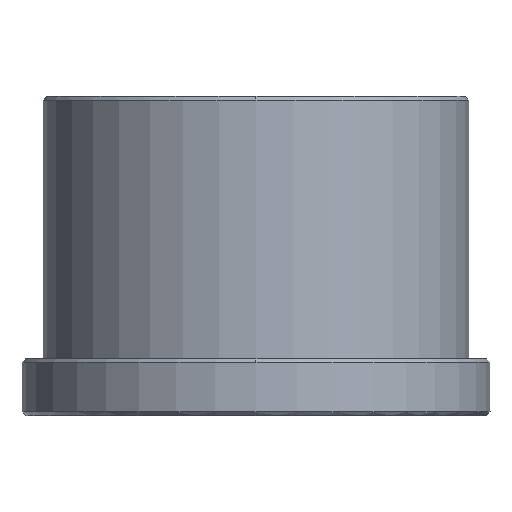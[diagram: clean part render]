
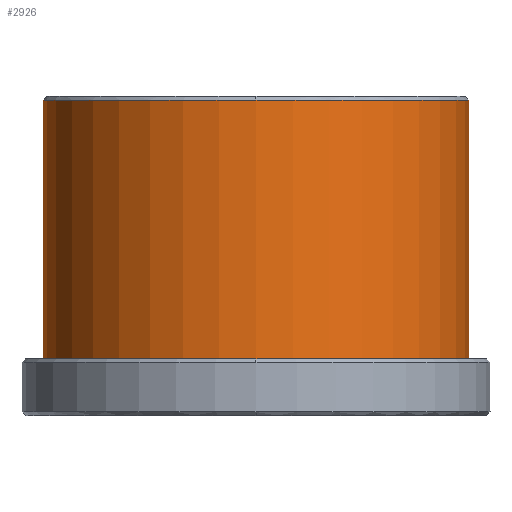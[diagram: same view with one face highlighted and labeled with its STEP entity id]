
A CAD part, front view. The second image highlights one B-rep face of the part: STEP entity #2926.
In plain terms, the highlighted cylindrical face has radius 30 mm (diameter 60 mm), a partial arc.
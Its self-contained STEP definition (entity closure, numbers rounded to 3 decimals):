
#2719=CARTESIAN_POINT('Vertex',(30.,0.,44.5)) ;
#2743=CARTESIAN_POINT('Vertex',(-30.,0.,44.5)) ;
#2767=CARTESIAN_POINT('Vertex',(0.,-30.,44.5)) ;
#2770=CARTESIAN_POINT('Axis2P3D Location',(0.,0.,44.5)) ;
#2787=CARTESIAN_POINT('Axis2P3D Location',(0.,0.,44.5)) ;
#2882=CARTESIAN_POINT('Line Origine',(30.,0.,-2.25)) ;
#2886=CARTESIAN_POINT('Vertex',(30.,0.,8.)) ;
#2893=CARTESIAN_POINT('Vertex',(-30.,0.,8.)) ;
#2896=CARTESIAN_POINT('Line Origine',(-30.,0.,-2.25)) ;
#2909=CARTESIAN_POINT('Axis2P3D Location',(0.,0.,-2.25)) ;
#2914=CARTESIAN_POINT('Axis2P3D Location',(0.,0.,8.)) ;
#2771=DIRECTION('Axis2P3D Direction',(0.,0.,-1.)) ;
#2788=DIRECTION('Axis2P3D Direction',(0.,0.,-1.)) ;
#2883=DIRECTION('Vector Direction',(0.,0.,1.)) ;
#2897=DIRECTION('Vector Direction',(0.,0.,1.)) ;
#2910=DIRECTION('Axis2P3D Direction',(0.,0.,1.)) ;
#2911=DIRECTION('Axis2P3D XDirection',(-1.,0.,0.)) ;
#2915=DIRECTION('Axis2P3D Direction',(0.,0.,1.)) ;
#2772=AXIS2_PLACEMENT_3D('Circle Axis2P3D',#2770,#2771,$) ;
#2789=AXIS2_PLACEMENT_3D('Circle Axis2P3D',#2787,#2788,$) ;
#2912=AXIS2_PLACEMENT_3D('Cylinder Axis2P3D',#2909,#2910,#2911) ;
#2916=AXIS2_PLACEMENT_3D('Circle Axis2P3D',#2914,#2915,$) ;
#2920=ORIENTED_EDGE('',*,*,#2900,.T.) ;
#2921=ORIENTED_EDGE('',*,*,#2918,.F.) ;
#2922=ORIENTED_EDGE('',*,*,#2888,.F.) ;
#2923=ORIENTED_EDGE('',*,*,#2791,.T.) ;
#2924=ORIENTED_EDGE('',*,*,#2774,.T.) ;
#2884=VECTOR('Line Direction',#2883,1.) ;
#2898=VECTOR('Line Direction',#2897,1.) ;
#2926=ADVANCED_FACE('MANIFOLD_SOLID_BREP #2292',(#2925),#2913,.T.) ;
#2773=CIRCLE('generated circle',#2772,30.) ;
#2790=CIRCLE('generated circle',#2789,30.) ;
#2917=CIRCLE('generated circle',#2916,30.) ;
#2913=CYLINDRICAL_SURFACE('generated cylinder',#2912,30.) ;
#2774=EDGE_CURVE('',#2768,#2744,#2773,.T.) ;
#2791=EDGE_CURVE('',#2720,#2768,#2790,.T.) ;
#2888=EDGE_CURVE('',#2720,#2887,#2885,.F.) ;
#2900=EDGE_CURVE('',#2744,#2894,#2899,.F.) ;
#2918=EDGE_CURVE('',#2887,#2894,#2917,.F.) ;
#2919=EDGE_LOOP('',(#2920,#2921,#2922,#2923,#2924)) ;
#2925=FACE_OUTER_BOUND('',#2919,.T.) ;
#2885=LINE('Line',#2882,#2884) ;
#2899=LINE('Line',#2896,#2898) ;
#2720=VERTEX_POINT('',#2719) ;
#2744=VERTEX_POINT('',#2743) ;
#2768=VERTEX_POINT('',#2767) ;
#2887=VERTEX_POINT('',#2886) ;
#2894=VERTEX_POINT('',#2893) ;
